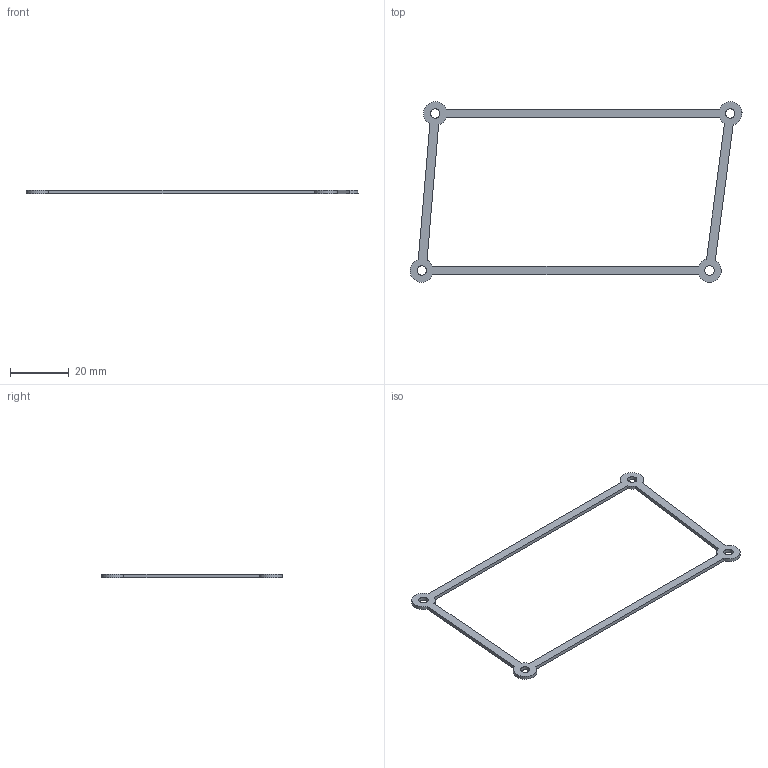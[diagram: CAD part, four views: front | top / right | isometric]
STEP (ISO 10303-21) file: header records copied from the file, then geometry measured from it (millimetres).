
FILE_DESCRIPTION(('Open CASCADE Model'),'2;1');
FILE_NAME('Open CASCADE Shape Model','2026-11-14T12:48:48',('Author'),( 'Open CASCADE'),'Open CASCADE STEP processor 7.9','Open CASCADE 7.9' ,'Unknown');
FILE_SCHEMA(('AUTOMOTIVE_DESIGN { 1 0 10303 214 1 1 1 1 }'));
Length unit declared in the file: millimetre
Products named in the file (1): Open CASCADE STEP translator 7.9 1
Bounding box: 113.09 x 61.5 x 1.2 mm (x, y, z)
Volume: 1192.4 mm3; surface area: 2790.4 mm2
Topology: 1 solids, 1 shells, 22 faces, 60 edges, 40 vertices
Faces by surface type: cylinder 12, plane 10
Full cylindrical faces by diameter (mm): 3.2 x4
Entity records: 1560 total; most frequent: CARTESIAN_POINT 327, DIRECTION 236, LINE 132, VECTOR 132, ORIENTED_EDGE 120, PCURVE 120, DEFINITIONAL_REPRESENTATION 120, EDGE_CURVE 60
